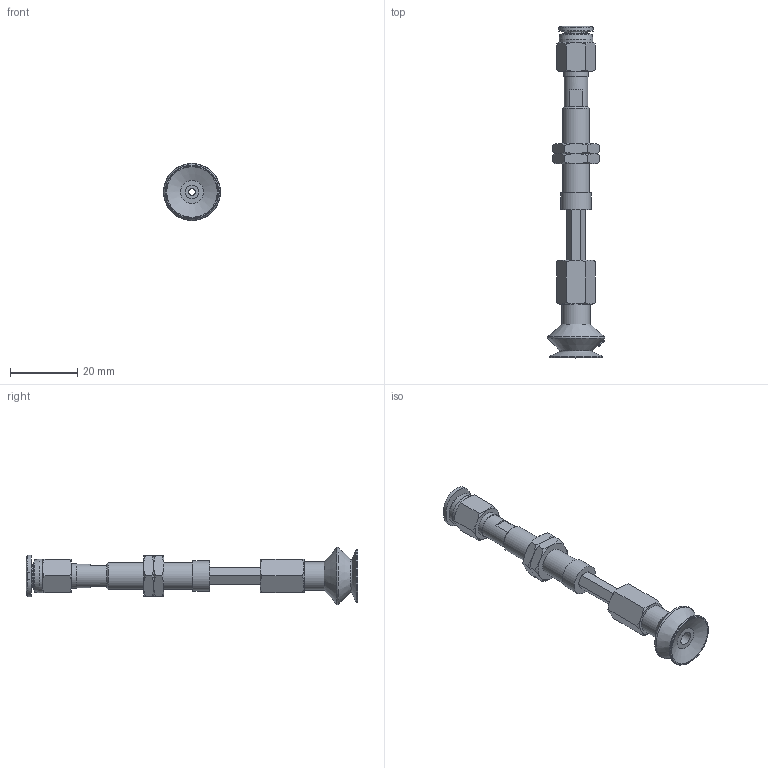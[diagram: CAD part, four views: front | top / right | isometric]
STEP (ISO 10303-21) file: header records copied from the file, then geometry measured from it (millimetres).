
FILE_DESCRIPTION(('STEP AP203'),'1');
FILE_NAME('-O.stp','2025-08-27T00:49:18',(' '),(' '),'Spatial InterOp 3D',' ',' ');
FILE_SCHEMA(('CONFIG_CONTROL_DESIGN'));
Length unit declared in the file: millimetre
Products named in the file (9): BNABPBTH-15A-15-※-O; ADAPTER; NAPATH-10A-15--M; Nut-15A-S-PB; NAPBTH-15A-15-FBODY; BPBG-15A-※; __27; BPBG-15A; PC-C_06-M5
Assembly tree (9 placements, depth 3):
  BNABPBTH-15A-15-※-O
    ADAPTER
    NAPATH-10A-15--M
    Nut-15A-S-PB  x2
    NAPBTH-15A-15-FBODY
    BPBG-15A-※
      __27
      BPBG-15A
    PC-C_06-M5
Bounding box: 17 x 98.48 x 17 mm (x, y, z)
Volume: 5027.7 mm3; surface area: 6587.6 mm2
Topology: 7 solids, 10 shells, 189 faces, 404 edges, 248 vertices
Faces by surface type: plane 71, cone 66, cylinder 24, torus 13, bspline 12, revolution 3
Full cylindrical faces by diameter (mm): 2 x2, 4 x5, 4.134 x1, 5 x1, 6 x2, 7 x2, 7.188 x2, 7.4 x1, 8 x1, 8.2 x1, 8.5 x1, 9 x1, 10 x1, 16 x1
Entity records: 6109 total; most frequent: CARTESIAN_POINT 2494, DIRECTION 638, ORIENTED_EDGE 582, EDGE_CURVE 293, AXIS2_PLACEMENT_3D 276, EDGE_LOOP 241, VERTEX_POINT 206, FACE_OUTER_BOUND 140
